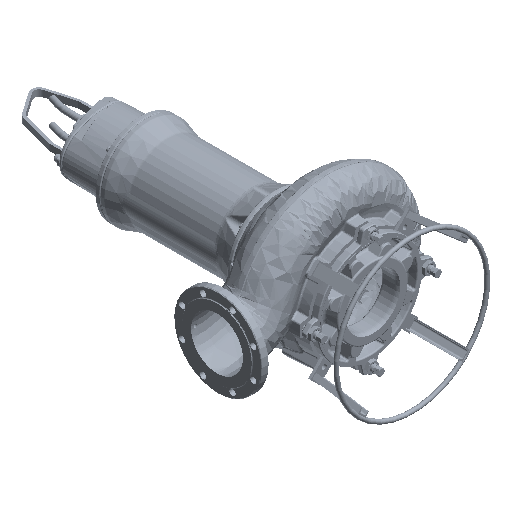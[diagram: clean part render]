
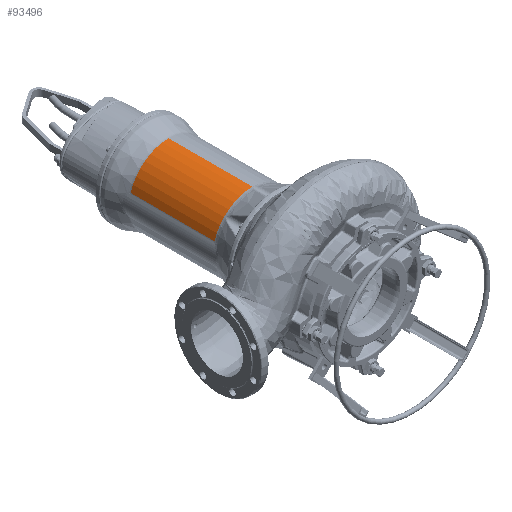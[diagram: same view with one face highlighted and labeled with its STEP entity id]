
A CAD part, isometric view. The second image highlights one B-rep face of the part: STEP entity #93496.
In plain terms, the highlighted cylindrical face has radius 152.5 mm (diameter 305 mm), a partial arc.
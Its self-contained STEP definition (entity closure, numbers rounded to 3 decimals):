
#5952 = EDGE_CURVE ( 'NONE', #132267, #209875, #228227, .T. ) ;
#11059 = EDGE_CURVE ( 'NONE', #209875, #492533, #103527, .T. ) ;
#17969 = LINE ( 'NONE', #391679, #79414 ) ;
#24544 = DIRECTION ( 'NONE',  ( 0., 0., -1. ) ) ;
#26554 = ORIENTED_EDGE ( 'NONE', *, *, #5952, .F. ) ;
#60567 = CARTESIAN_POINT ( 'NONE',  ( 0., -311.232, 152.5 ) ) ;
#79414 = VECTOR ( 'NONE', #82188, 1000. ) ;
#82188 = DIRECTION ( 'NONE',  ( 0., -1., 0. ) ) ;
#86320 = DIRECTION ( 'NONE',  ( 0., 0., -1. ) ) ;
#93496 = ADVANCED_FACE ( 'NONE', ( #550929 ), #564638, .T. ) ;
#103527 = CIRCLE ( 'NONE', #481571, 152.5 ) ;
#128361 = DIRECTION ( 'NONE',  ( 0., -1., 0. ) ) ;
#128647 = ORIENTED_EDGE ( 'NONE', *, *, #405203, .T. ) ;
#132127 = CARTESIAN_POINT ( 'NONE',  ( 0., 242.747, 0. ) ) ;
#132267 = VERTEX_POINT ( 'NONE', #181694 ) ;
#146506 = DIRECTION ( 'NONE',  ( 0., -1., 0. ) ) ;
#181694 = CARTESIAN_POINT ( 'NONE',  ( 0., 242.747, 152.5 ) ) ;
#205815 = ORIENTED_EDGE ( 'NONE', *, *, #303166, .T. ) ;
#209875 = VERTEX_POINT ( 'NONE', #258304 ) ;
#228227 = LINE ( 'NONE', #60567, #460590 ) ;
#230206 = EDGE_LOOP ( 'NONE', ( #26554, #205815, #128647, #442600 ) ) ;
#258304 = CARTESIAN_POINT ( 'NONE',  ( 0., -81.36, 152.5 ) ) ;
#303166 = EDGE_CURVE ( 'NONE', #132267, #492962, #549724, .T. ) ;
#308657 = DIRECTION ( 'NONE',  ( 0., 0., -1. ) ) ;
#333298 = CARTESIAN_POINT ( 'NONE',  ( -146.306, -81.36, 43.023 ) ) ;
#334092 = DIRECTION ( 'NONE',  ( 0., -1., 0. ) ) ;
#334764 = CARTESIAN_POINT ( 'NONE',  ( -146.306, 242.747, 43.023 ) ) ;
#378036 = CARTESIAN_POINT ( 'NONE',  ( 0., -311.232, 0. ) ) ;
#380101 = AXIS2_PLACEMENT_3D ( 'NONE', #132127, #128361, #86320 ) ;
#391679 = CARTESIAN_POINT ( 'NONE',  ( -146.306, -311.232, 43.023 ) ) ;
#402286 = DIRECTION ( 'NONE',  ( 0., -1., 0. ) ) ;
#405203 = EDGE_CURVE ( 'NONE', #492962, #492533, #17969, .T. ) ;
#442600 = ORIENTED_EDGE ( 'NONE', *, *, #11059, .F. ) ;
#460590 = VECTOR ( 'NONE', #146506, 1000. ) ;
#470956 = AXIS2_PLACEMENT_3D ( 'NONE', #378036, #334092, #24544 ) ;
#481571 = AXIS2_PLACEMENT_3D ( 'NONE', #488150, #402286, #308657 ) ;
#488150 = CARTESIAN_POINT ( 'NONE',  ( 0., -81.36, 0. ) ) ;
#492533 = VERTEX_POINT ( 'NONE', #333298 ) ;
#492962 = VERTEX_POINT ( 'NONE', #334764 ) ;
#549724 = CIRCLE ( 'NONE', #380101, 152.5 ) ;
#550929 = FACE_OUTER_BOUND ( 'NONE', #230206, .T. ) ;
#564638 = CYLINDRICAL_SURFACE ( 'NONE', #470956, 152.5 ) ;
